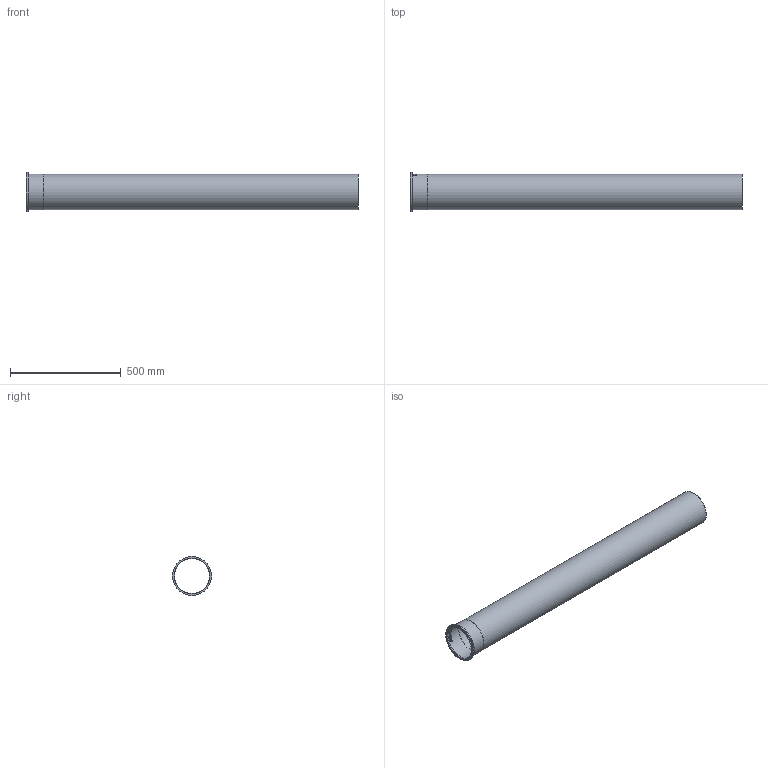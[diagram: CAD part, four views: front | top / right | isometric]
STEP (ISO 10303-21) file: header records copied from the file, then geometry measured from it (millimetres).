
FILE_DESCRIPTION((''),'2;1');
FILE_NAME('I:\WATTS\3D_CAD\3D_CAD_Models\Blucher_Drains\P_StraightPipe\WebsiteFiles\3D\STEP\P6-4.9-316.stp','2009-12-02T16:22:12',('menesek'),(''),'Autodesk Inventor 2010','Autodesk Inventor 2010','');
FILE_SCHEMA(('AUTOMOTIVE_DESIGN { 1 0 10303 214 1 1 1 1 }'));
Length unit declared in the file: inch
Products named in the file (1): P6-4.9-316
Bounding box: 1500 x 177.04 x 177.04 mm (x, y, z)
Volume: 995740.3 mm3; surface area: 1504876.5 mm2
Topology: 1 solids, 1 shells, 109 faces, 285 edges, 190 vertices
Faces by surface type: plane 59, bspline 34, cylinder 16
Full cylindrical faces by diameter (mm): 157.226 x1, 159.766 x1, 160.782 x2, 177.038 x1
Entity records: 13936 total; most frequent: CARTESIAN_POINT 11558, ORIENTED_EDGE 548, DIRECTION 356, EDGE_CURVE 274, VERTEX_POINT 186, EDGE_LOOP 128, AXIS2_PLACEMENT_3D 120, VECTOR 116
